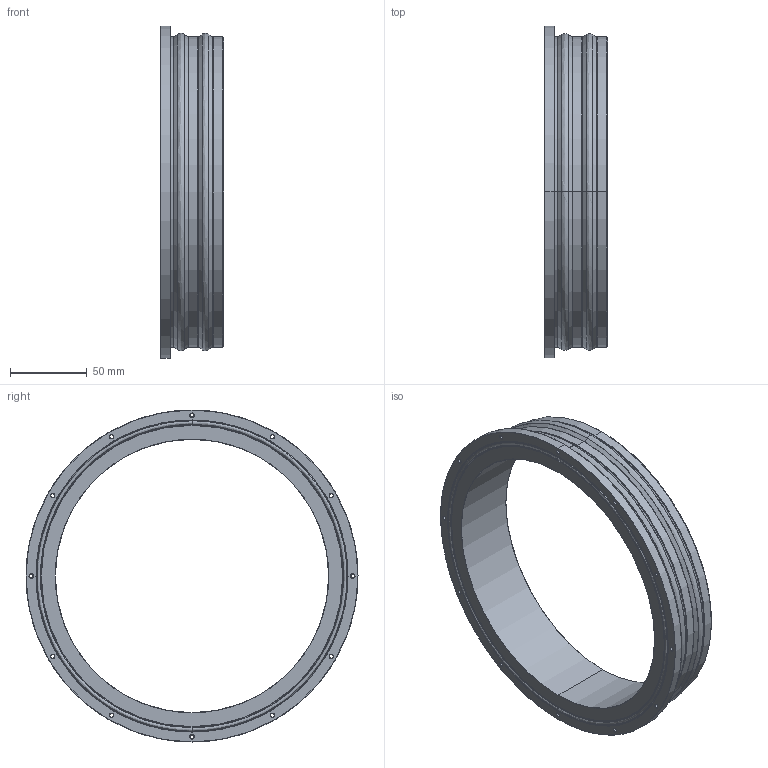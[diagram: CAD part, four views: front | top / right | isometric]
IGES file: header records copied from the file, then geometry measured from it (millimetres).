
Start section: SolidWorks IGES file using analytic representation for surfaces
Global section: file name: C:\Users\Jonathan\Dropbox\BR-Engineering\Models\WTE8-X1A-PUBLIC\IGS STEP STL\WTE8-M-FLANGE-SEAL-R1.IGS; native system: SolidWorks 2014; preprocessor: SolidWorks 2014; author: Jonathan; date: 170301.094732; units: millimetre
Bounding box: 41.5 x 215.9 x 215.9 mm (x, y, z)
Surface area: 78100.7 mm2 (no closed solid volume)
Topology: 0 solids, 0 shells, 126 faces, 1944 edges, 1936 vertices
Faces by surface type: revolution 112, bspline 14
